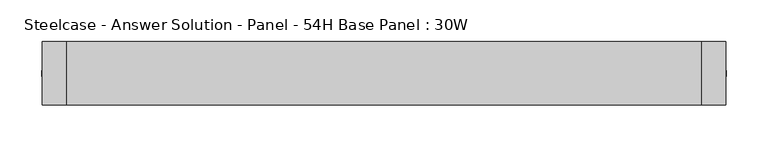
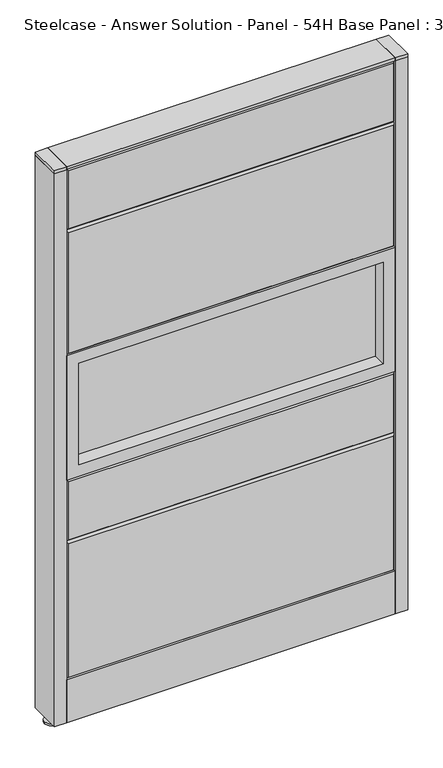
"""IFC4 building model written with IfcOpenShell, lengths in millimetres: furniture geometry, Steelcase - Answer Solution - Panel - 54H Base Panel : 30W."""

from ifc_helpers import new_model, si_unit, point, frame, frame_2d, origin, place, context, project, spatial, polyline, circle_curve, trimmed, segment, composite_curve, outline, extrude, faceted_brep, source, transform, mapped, element, save


def steelcase_answer_solution_panel_54h_base_panel_30w_0c6839b6(model_context):
    return source(origin(), model_context, "Body", "SolidModel", [
        extrude(outline(composite_curve([segment(trimmed(circle_curve(frame_2d((395.224, 0.0320214)), 5.08), [point((400.304, 0.0320214))], [point((390.144, 0.0320214))], False, "CARTESIAN"), True, "CONTINUOUS"), segment(trimmed(circle_curve(frame_2d((395.224, 0.0320214)), 5.08), [point((390.144, 0.0320214))], [point((400.304, 0.0320214))], False, "CARTESIAN"), True, "CONTINUOUS")], self_intersect=False)), frame((0.0, 0.0, 5.0799671), z_axis=(0.0, 0.0, 1.0), x_axis=(1.0, 0.0, 0.0)), (0.0, 0.0, 1.0), 10.414),
        extrude(outline(composite_curve([segment(trimmed(circle_curve(frame_2d((395.224, 0.0320214)), 15.24), [point((410.464, 0.0320214))], [point((379.984, 0.0320214))], False, "CARTESIAN"), True, "CONTINUOUS"), segment(trimmed(circle_curve(frame_2d((395.224, 0.0320214)), 15.24), [point((379.984, 0.0320214))], [point((410.464, 0.0320214))], False, "CARTESIAN"), True, "CONTINUOUS")], self_intersect=False)), frame((0.0, 0.0, -3.29e-05), z_axis=(0.0, 0.0, 1.0), x_axis=(1.0, 0.0, 0.0)), (0.0, 0.0, 1.0), 5.08),
        extrude(outline(polyline([(409.575, 38.1320408), (409.575, -38.0679592), (381.0, -38.0679592), (381.0, 38.1320408), (409.575, 38.1320408)])), frame((0.0, 0.0, 1370.6348), z_axis=(0.0, 0.0, 1.0), x_axis=(1.0, 0.0, 0.0)), (0.0, 0.0, 1.0), 7.3151671),
        extrude(outline(polyline([(409.575, 38.1320408), (409.575, -38.0679592), (381.0, -38.0679592), (381.0, 38.1320408), (409.575, 38.1320408)])), frame((0.0, 0.0, 15.4939671), z_axis=(0.0, 0.0, 1.0), x_axis=(1.0, 0.0, 0.0)), (0.0, 0.0, 1.0), 1355.1408329),
        extrude(outline(composite_curve([segment(trimmed(circle_curve(frame_2d((-395.224, 0.0320214)), 5.08), [point((-400.304, 0.0320214))], [point((-390.144, 0.0320214))], False, "CARTESIAN"), True, "CONTINUOUS"), segment(trimmed(circle_curve(frame_2d((-395.224, 0.0320214)), 5.08), [point((-390.144, 0.0320214))], [point((-400.304, 0.0320214))], False, "CARTESIAN"), True, "CONTINUOUS")], self_intersect=False)), frame((0.0, 0.0, 5.0799671), z_axis=(0.0, 0.0, 1.0), x_axis=(1.0, 0.0, 0.0)), (0.0, 0.0, 1.0), 10.414),
        extrude(outline(composite_curve([segment(trimmed(circle_curve(frame_2d((-395.224, 0.0320214)), 15.24), [point((-410.464, 0.0320214))], [point((-379.984, 0.0320214))], False, "CARTESIAN"), True, "CONTINUOUS"), segment(trimmed(circle_curve(frame_2d((-395.224, 0.0320214)), 15.24), [point((-379.984, 0.0320214))], [point((-410.464, 0.0320214))], False, "CARTESIAN"), True, "CONTINUOUS")], self_intersect=False)), frame((0.0, 0.0, -3.29e-05), z_axis=(0.0, 0.0, 1.0), x_axis=(1.0, 0.0, 0.0)), (0.0, 0.0, 1.0), 5.08),
        extrude(outline(polyline([(-409.575, 38.1320408), (-381.0, 38.1320408), (-381.0, -38.0679592), (-409.575, -38.0679592), (-409.575, 38.1320408)])), frame((0.0, 0.0, 1370.6348), z_axis=(0.0, 0.0, 1.0), x_axis=(1.0, 0.0, 0.0)), (0.0, 0.0, 1.0), 7.3151671),
        extrude(outline(polyline([(-409.575, 38.1320408), (-381.0, 38.1320408), (-381.0, -38.0679592), (-409.575, -38.0679592), (-409.575, 38.1320408)])), frame((0.0, 0.0, 15.4939671), z_axis=(0.0, 0.0, 1.0), x_axis=(1.0, 0.0, 0.0)), (0.0, 0.0, 1.0), 1355.1408329),
        faceted_brep([(-376.174, 38.1635011, 1366.774), (376.174, 38.1635011, 1366.774), (376.174, 38.1635011, 1224.026), (-376.174, 38.1635011, 1224.026), (-381.0, 33.3375011, 1371.6), (-381.0, 33.3375011, 1219.2), (381.0, 33.3375011, 1219.2), (381.0, 33.3375011, 1371.6)], [[[0, 1, 2, 3]], [[4, 5, 6, 7]], [[4, 7, 1, 0]], [[7, 6, 2, 1]], [[6, 5, 3, 2]], [[5, 4, 0, 3]]]),
        extrude(outline(polyline([(-353.06, 6.346049), (353.06, 6.346049), (353.06, -6.353951), (-353.06, -6.353951), (-353.06, 6.346049)])), frame((0.0, 0.0, 637.54), z_axis=(0.0, 0.0, 1.0), x_axis=(1.0, 0.0, 0.0)), (0.0, 0.0, 1.0), 248.92),
        extrude(outline(polyline([(914.4, -381.0), (609.6, -381.0), (609.6, 381.0), (914.4, 381.0), (914.4, -381.0)]), holes=[polyline([(886.46, -353.06), (886.46, 353.06), (637.54, 353.06), (637.54, -353.06), (886.46, -353.06)])]), frame((0.0, -38.103951, 0.0), z_axis=(0.0, 1.0, 0.0), x_axis=(0.0, 0.0, 1.0)), (0.0, 0.0, 1.0), 76.2),
        faceted_brep([(-376.174, 38.1635011, 1214.374), (376.174, 38.1635011, 1214.374), (376.174, 38.1635011, 919.226), (-376.174, 38.1635011, 919.226), (-381.0, 33.3375011, 1219.2), (-381.0, 33.3375011, 914.4), (381.0, 33.3375011, 914.4), (381.0, 33.3375011, 1219.2)], [[[0, 1, 2, 3]], [[4, 5, 6, 7]], [[4, 7, 1, 0]], [[7, 6, 2, 1]], [[6, 5, 3, 2]], [[5, 4, 0, 3]]]),
        faceted_brep([(-376.174, 38.1635011, 604.774), (376.174, 38.1635011, 604.774), (376.174, 38.1635011, 462.026), (-376.174, 38.1635011, 462.026), (-381.0, 33.3375011, 609.6), (-381.0, 33.3375011, 457.2), (381.0, 33.3375011, 457.2), (381.0, 33.3375011, 609.6)], [[[0, 1, 2, 3]], [[4, 5, 6, 7]], [[4, 7, 1, 0]], [[7, 6, 2, 1]], [[6, 5, 3, 2]], [[5, 4, 0, 3]]]),
        faceted_brep([(-376.174, 38.1635011, 452.374), (376.174, 38.1635011, 452.374), (376.174, 38.1635011, 125.476), (-376.174, 38.1635011, 125.476), (-381.0, 33.3375011, 457.2), (-381.0, 33.3375011, 120.65), (381.0, 33.3375011, 120.65), (381.0, 33.3375011, 457.2)], [[[0, 1, 2, 3]], [[4, 5, 6, 7]], [[4, 7, 1, 0]], [[7, 6, 2, 1]], [[6, 5, 3, 2]], [[5, 4, 0, 3]]]),
        faceted_brep([(376.174, -38.1635011, 1366.774), (-376.174, -38.1635011, 1366.774), (-376.174, -38.1635011, 1224.026), (376.174, -38.1635011, 1224.026), (381.0, -33.3375011, 1371.6), (381.0, -33.3375011, 1219.2), (-381.0, -33.3375011, 1219.2), (-381.0, -33.3375011, 1371.6)], [[[0, 1, 2, 3]], [[4, 5, 6, 7]], [[4, 7, 1, 0]], [[7, 6, 2, 1]], [[6, 5, 3, 2]], [[5, 4, 0, 3]]]),
        extrude(outline(polyline([(353.06, -6.346049), (-353.06, -6.346049), (-353.06, 6.353951), (353.06, 6.353951), (353.06, -6.346049)])), frame((0.0, 0.0, 637.54), z_axis=(0.0, 0.0, 1.0), x_axis=(1.0, 0.0, 0.0)), (0.0, 0.0, 1.0), 248.92),
        extrude(outline(polyline([(914.4, 381.0), (914.4, -381.0), (609.6, -381.0), (609.6, 381.0), (914.4, 381.0)]), holes=[polyline([(886.46, 353.06), (637.54, 353.06), (637.54, -353.06), (886.46, -353.06), (886.46, 353.06)])]), frame((0.0, -38.096049, 0.0), z_axis=(0.0, 1.0, 0.0), x_axis=(0.0, 0.0, 1.0)), (0.0, 0.0, 1.0), 76.2),
        faceted_brep([(376.174, -38.1635011, 1214.374), (-376.174, -38.1635011, 1214.374), (-376.174, -38.1635011, 919.226), (376.174, -38.1635011, 919.226), (381.0, -33.3375011, 1219.2), (381.0, -33.3375011, 914.4), (-381.0, -33.3375011, 914.4), (-381.0, -33.3375011, 1219.2)], [[[0, 1, 2, 3]], [[4, 5, 6, 7]], [[4, 7, 1, 0]], [[7, 6, 2, 1]], [[6, 5, 3, 2]], [[5, 4, 0, 3]]]),
        faceted_brep([(376.174, -38.1635011, 604.774), (-376.174, -38.1635011, 604.774), (-376.174, -38.1635011, 462.026), (376.174, -38.1635011, 462.026), (381.0, -33.3375011, 609.6), (381.0, -33.3375011, 457.2), (-381.0, -33.3375011, 457.2), (-381.0, -33.3375011, 609.6)], [[[0, 1, 2, 3]], [[4, 5, 6, 7]], [[4, 7, 1, 0]], [[7, 6, 2, 1]], [[6, 5, 3, 2]], [[5, 4, 0, 3]]]),
        faceted_brep([(376.174, -38.1635011, 452.374), (-376.174, -38.1635011, 452.374), (-376.174, -38.1635011, 125.476), (376.174, -38.1635011, 125.476), (381.0, -33.3375011, 457.2), (381.0, -33.3375011, 120.65), (-381.0, -33.3375011, 120.65), (-381.0, -33.3375011, 457.2)], [[[0, 1, 2, 3]], [[4, 5, 6, 7]], [[4, 7, 1, 0]], [[7, 6, 2, 1]], [[6, 5, 3, 2]], [[5, 4, 0, 3]]]),
        extrude(outline(polyline([(381.0, 38.1000194), (381.0, -38.1000194), (-381.0, -38.1000194), (-381.0, 38.1000194), (381.0, 38.1000194)])), frame((0.0, 0.0, 1371.6), z_axis=(0.0, 0.0, 1.0), x_axis=(1.0, 0.0, 0.0)), (0.0, 0.0, 1.0), 6.35),
        extrude(outline(polyline([(25.4000011, 119.8575157), (25.4000011, 120.65), (38.1000194, 120.65), (38.1000194, 15.494), (37.3075215, 15.494), (37.3075215, 119.8575157), (25.4000011, 119.8575157)])), frame((-381.0, 0.0, 0.0), z_axis=(1.0, 0.0, 0.0), x_axis=(0.0, 1.0, 0.0)), (0.0, 0.0, 1.0), 762.0),
        extrude(outline(polyline([(-25.4000011, 119.8575157), (-37.3075215, 119.8575157), (-37.3075215, 15.494), (-38.1000194, 15.494), (-38.1000194, 120.65), (-25.4000011, 120.65), (-25.4000011, 119.8575157)])), frame((-381.0, 0.0, 0.0), z_axis=(1.0, 0.0, 0.0), x_axis=(0.0, 1.0, 0.0)), (0.0, 0.0, 1.0), 762.0),
    ])


if __name__ == "__main__":
    model = new_model("IFC4")
    model_context = context("Model", 3, world=origin())
    ifc_project = project(units=[si_unit("LENGTHUNIT", "METRE", prefix="MILLI")], contexts=[model_context])
    site = spatial("IfcSite", under=ifc_project)
    building = spatial("IfcBuilding", under=site)
    placement = place(None, origin())
    steelcase_answer_solution_panel_54h_base_panel_30w_shape = steelcase_answer_solution_panel_54h_base_panel_30w_0c6839b6(model_context)
    element("IfcFurniture", 1, ObjectType="Steelcase - Answer Solution - Panel - 54H Base Panel : 30W", at=placement, inside=building, context=model_context, shape_type="MappedRepresentation", body=[
        mapped(steelcase_answer_solution_panel_54h_base_panel_30w_shape, transform((0.0, 0.0, 0.0), x_axis=(1.0, 0.0, 0.0), y_axis=(0.0, 1.0, 0.0), z_axis=(0.0, 0.0, 1.0))),
    ])
    save(model, "model.ifc")
